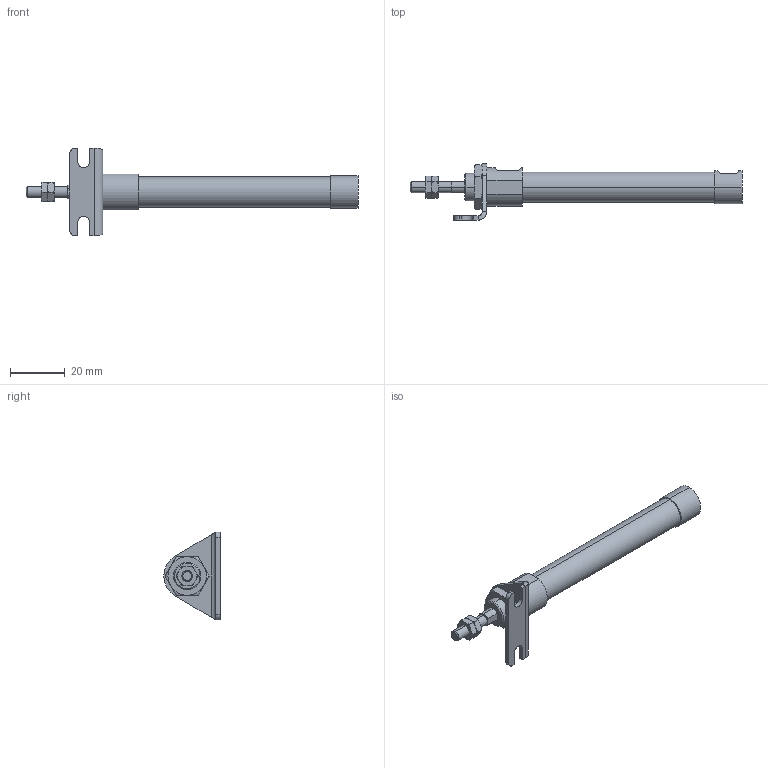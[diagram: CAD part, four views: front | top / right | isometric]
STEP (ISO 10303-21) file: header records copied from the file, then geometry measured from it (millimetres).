
FILE_DESCRIPTION (( 'STEP AP203' ), '1' );
FILE_NAME ('ZGU2-10-45-L.STEP', '2016-03-31T00:53:31', ( '' ), ( '' ), 'SwSTEP 2.0', 'SolidWorks 2014', '' );
FILE_SCHEMA (( 'CONFIG_CONTROL_DESIGN' ));
Length unit declared in the file: millimetre
Products named in the file (5): Z-10-L; ZGU2-10-45; ZGU2-10-45-L
Assembly tree (5 placements, depth 2):
  ZGU2-10-45-L
    ZGU2-10-45
    (unnamed)  x2
    (unnamed)
    Z-10-L
Bounding box: 121 x 20.5 x 32 mm (x, y, z)
Volume: 11750.5 mm3; surface area: 6554.9 mm2
Topology: 5 solids, 5 shells, 134 faces, 299 edges, 180 vertices
Faces by surface type: plane 56, torus 36, cylinder 32, cone 8, bspline 2
Entity records: 3960 total; most frequent: CARTESIAN_POINT 989, DIRECTION 511, ORIENTED_EDGE 494, EDGE_CURVE 247, AXIS2_PLACEMENT_3D 202, VERTEX_POINT 152, EDGE_LOOP 127, FACE_OUTER_BOUND 112
